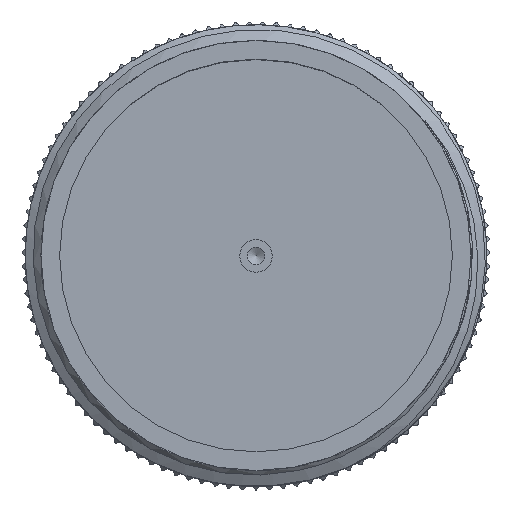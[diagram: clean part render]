
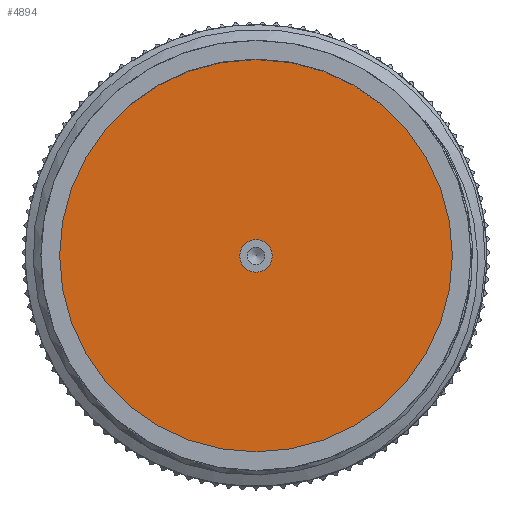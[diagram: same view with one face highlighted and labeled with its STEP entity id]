
A CAD part, top view. The second image highlights one B-rep face of the part: STEP entity #4894.
In plain terms, the highlighted planar face has unit normal (0, 0, 1).
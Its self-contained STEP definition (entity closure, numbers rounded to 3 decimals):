
#1086 = DIRECTION ( 'NONE',  ( -1., 0., 0. ) ) ;
#2191 = ORIENTED_EDGE ( 'NONE', *, *, #13315, .F. ) ;
#2425 = EDGE_LOOP ( 'NONE', ( #2191 ) ) ;
#3361 = DIRECTION ( 'NONE',  ( 0., 0., -1. ) ) ;
#4038 = DIRECTION ( 'NONE',  ( 0., 0., 1. ) ) ;
#4894 = ADVANCED_FACE ( 'NONE', ( #11315, #11648 ), #28228, .F. ) ;
#6133 = AXIS2_PLACEMENT_3D ( 'NONE', #26265, #3361, #1086 ) ;
#6168 = VERTEX_POINT ( 'NONE', #24582 ) ;
#6742 = CIRCLE ( 'NONE', #24335, 1.115 ) ;
#11315 = FACE_OUTER_BOUND ( 'NONE', #13759, .T. ) ;
#11648 = FACE_BOUND ( 'NONE', #2425, .T. ) ;
#12962 = VERTEX_POINT ( 'NONE', #20038 ) ;
#13135 = CIRCLE ( 'NONE', #18751, 13.49 ) ;
#13315 = EDGE_CURVE ( 'NONE', #12962, #12962, #6742, .T. ) ;
#13759 = EDGE_LOOP ( 'NONE', ( #22120 ) ) ;
#15564 = DIRECTION ( 'NONE',  ( 1., 0., 0. ) ) ;
#18751 = AXIS2_PLACEMENT_3D ( 'NONE', #18770, #18850, #23218 ) ;
#18770 = CARTESIAN_POINT ( 'NONE',  ( 0., 0., -19.05 ) ) ;
#18850 = DIRECTION ( 'NONE',  ( 0., 0., 1. ) ) ;
#20038 = CARTESIAN_POINT ( 'NONE',  ( 1.115, 0., -19.05 ) ) ;
#22120 = ORIENTED_EDGE ( 'NONE', *, *, #23423, .T. ) ;
#23218 = DIRECTION ( 'NONE',  ( 1., 0., 0. ) ) ;
#23423 = EDGE_CURVE ( 'NONE', #6168, #6168, #13135, .T. ) ;
#24335 = AXIS2_PLACEMENT_3D ( 'NONE', #26648, #4038, #15564 ) ;
#24582 = CARTESIAN_POINT ( 'NONE',  ( 13.49, 0., -19.05 ) ) ;
#26265 = CARTESIAN_POINT ( 'NONE',  ( 0., 1.974, -19.05 ) ) ;
#26648 = CARTESIAN_POINT ( 'NONE',  ( 0., 0., -19.05 ) ) ;
#28228 = PLANE ( 'NONE',  #6133 ) ;
